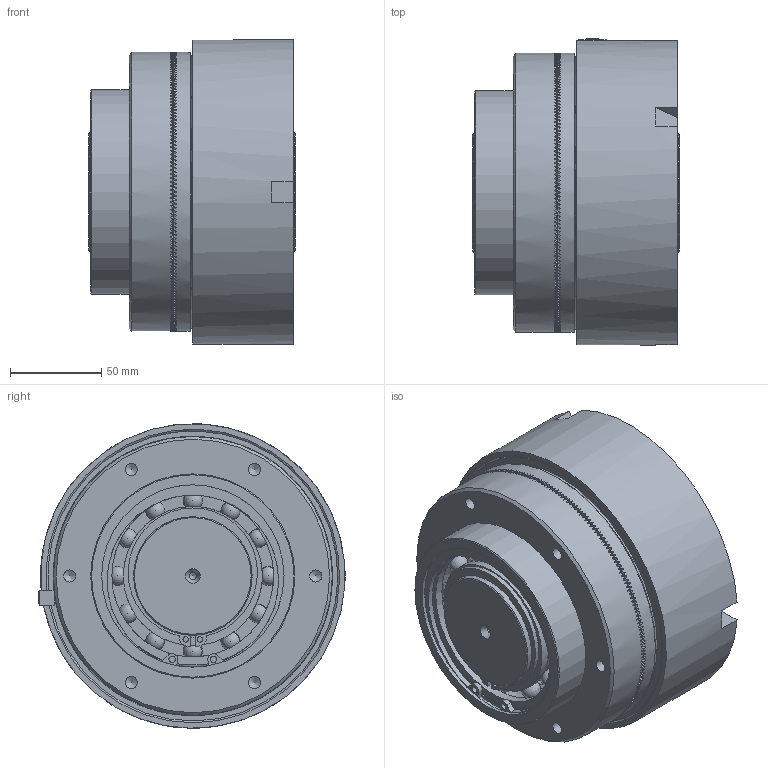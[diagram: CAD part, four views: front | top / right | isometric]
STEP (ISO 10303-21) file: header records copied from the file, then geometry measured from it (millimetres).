
FILE_DESCRIPTION((''),'2;1');
FILE_NAME('\\Srv-tecnico\DATI\UFFICIO TECNICO\ARCHIVIO INVENTOR\DISEGNI\UFFICIO TECNICO\03_Friz_Oleodinamiche e Pneumatiche_Cilindro_Statico\03_20 DPR\03_20_05_01 DPR05\03_20_05_01 DPR 05@STEP.stp','2014-09-15T15:55:48',('stefano'),(''),'Autodesk Inventor 2010','Autodesk Inventor 2010','');
FILE_SCHEMA(('AUTOMOTIVE_DESIGN { 1 0 10303 214 1 1 1 1 }'));
Length unit declared in the file: millimetre
Products named in the file (1): 03_20_05_01 DPR 05_Sostituto_1
Bounding box: 113 x 167.9 x 166.92 mm (x, y, z)
Volume: 1622631.7 mm3; surface area: 324933.6 mm2
Topology: 13 solids, 13 shells, 2621 faces, 8042 edges, 5329 vertices
Faces by surface type: plane 1897, cylinder 367, torus 245, sphere 59, bspline 40, cone 13
Full cylindrical faces by diameter (mm): 4 x1, 7 x1, 11.445 x1, 62 x2, 64.5 x2, 65 x8, 75 x1, 76.2 x6, 88.8 x6, 90.8 x1, 91 x2, 100 x7, 103.5 x1, 110 x3, 112 x1, 115 x1, 119.5 x1, 120 x2, 125 x1, 128 x1, 129.6 x2, 132 x1, 140.4 x2, 141 x2, 142 x1, 150 x2, 153 x2, 155 x2, 167 x1
Entity records: 98332 total; most frequent: CARTESIAN_POINT 24973, DIRECTION 16892, ORIENTED_EDGE 15358, EDGE_CURVE 7679, AXIS2_PLACEMENT_3D 7334, VERTEX_POINT 5151, EDGE_LOOP 2862, ELLIPSE 2643
